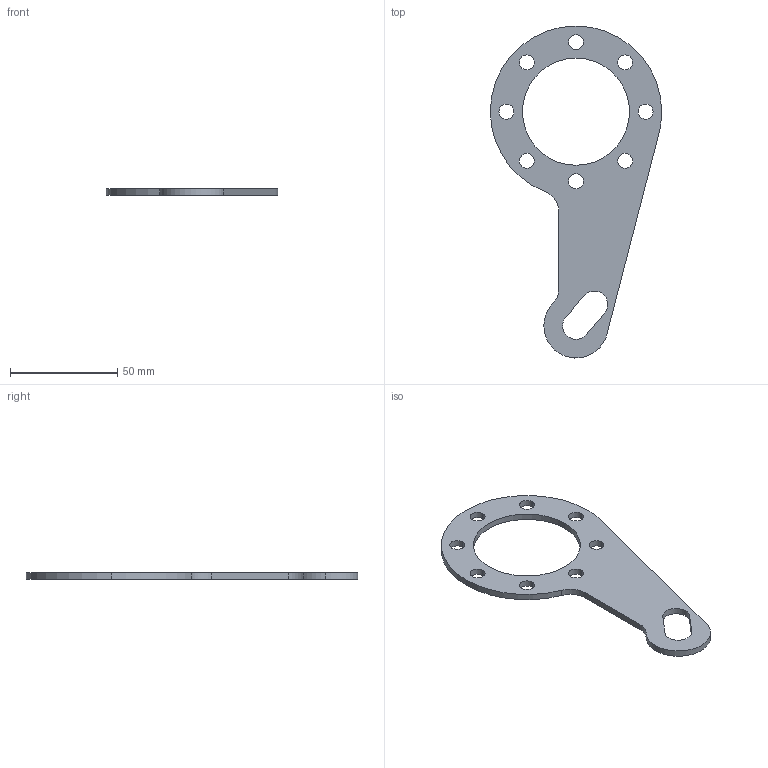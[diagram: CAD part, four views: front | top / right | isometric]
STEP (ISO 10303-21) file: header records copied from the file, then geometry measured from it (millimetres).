
FILE_DESCRIPTION (( 'STEP AP203' ), '1' );
FILE_NAME ('084.807.005.STEP', '2013-01-29T09:39:03', ( 'Alusic' ), ( 'Alusic' ), 'SwSTEP 2.0', 'SolidWorks 2011', '' );
FILE_SCHEMA (( 'CONFIG_CONTROL_DESIGN' ));
Length unit declared in the file: millimetre
Products named in the file (1): 084.807.005
Bounding box: 80 x 154.99 x 3 mm (x, y, z)
Volume: 14874.6 mm3; surface area: 12286 mm2
Topology: 1 solids, 1 shells, 34 faces, 96 edges, 64 vertices
Faces by surface type: cylinder 28, plane 6
Entity records: 1253 total; most frequent: DIRECTION 222, CARTESIAN_POINT 195, ORIENTED_EDGE 192, EDGE_CURVE 96, AXIS2_PLACEMENT_3D 91, VERTEX_POINT 64, CIRCLE 56, EDGE_LOOP 54
